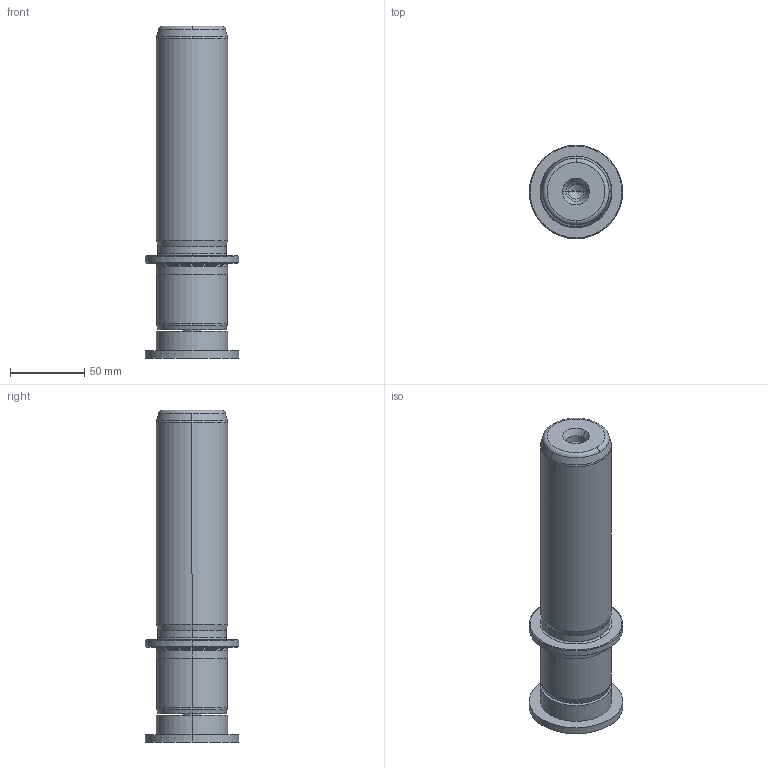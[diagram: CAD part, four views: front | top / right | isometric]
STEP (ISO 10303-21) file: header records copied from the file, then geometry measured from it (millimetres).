
FILE_DESCRIPTION((''),'2;1');
FILE_NAME('P22_048_160.stp','2009-11-02T10:37:05',(''),(''),'Mechanical Desktop 2009','Mechanical Desktop 2009',', , ');
FILE_SCHEMA(('CONFIG_CONTROL_DESIGN'));
Length unit declared in the file: millimetre
Products named in the file (2): Product; blmdl1
Assembly tree (1 placements, depth 2):
  Product
    blmdl1
Bounding box: 63 x 63 x 224 mm (x, y, z)
Volume: 407268.1 mm3; surface area: 51608.2 mm2
Topology: 3 solids, 3 shells, 99 faces, 237 edges, 149 vertices
Faces by surface type: cylinder 32, cone 28, plane 19, torus 10, bspline 10
Entity records: 3419 total; most frequent: CARTESIAN_POINT 923, DIRECTION 570, ORIENTED_EDGE 466, AXIS2_PLACEMENT_3D 246, EDGE_CURVE 233, CIRCLE 155, VERTEX_POINT 149, EDGE_LOOP 110
